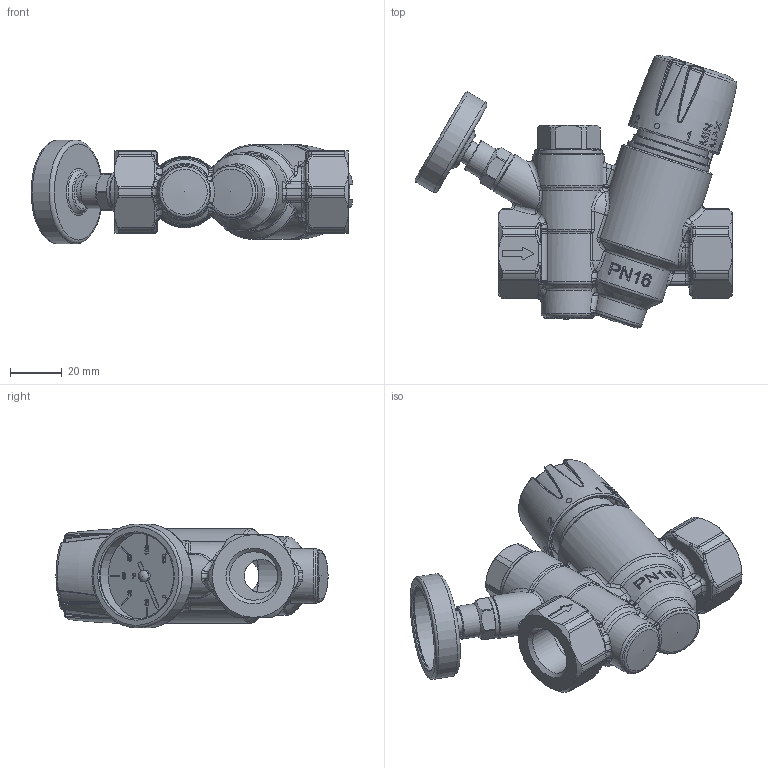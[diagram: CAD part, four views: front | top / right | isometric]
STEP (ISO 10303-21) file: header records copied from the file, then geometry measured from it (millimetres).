
FILE_DESCRIPTION(/* description */ ('Unknown'),/* implementation_level */ '2;1');
FILE_NAME(/* name */ 'T440132.L-AF',/* time_stamp */ '2024-04-08T17:09:53+02:00',/* author */ ('Unknown'),/* organization */ ('Unknown'),/* preprocessor_version */ 'ST-DEVELOPER v18.102',/* originating_system */ 'Solid Edge',/* authorisation */ 'Unknown');
FILE_SCHEMA (('AUTOMOTIVE_DESIGN {1 0 10303 214 3 1 1}'));
Products named in the file (9): T44.L-AF; 41291; GHIERA T44 AFRISO; 23498; Manopola serigrafata T15; 67161; 22018; 23497; 57205
Assembly tree (8 placements, depth 2):
  T44.L-AF
    41291
    GHIERA T44 AFRISO
    23498
    Manopola serigrafata T15
    67161
    22018
    23497
    57205
Bounding box: 123.83 x 104.69 x 40 mm (x, y, z)
Volume: 86135.6 mm3; surface area: 59816.3 mm2
Topology: 8 solids, 8 shells, 2144 faces, 5664 edges, 3583 vertices
Faces by surface type: plane 723, bspline 541, cylinder 411, torus 279, cone 107, sphere 83
Full cylindrical faces by diameter (mm): 0.3 x1, 4 x1, 4.5 x1, 4.502 x1, 4.572 x1, 7.841 x1, 8 x1, 8.8 x1, 9 x1, 10 x2, 11.5 x1, 12 x1, 12.8 x1, 13 x5, 13.5 x1, 14.4 x1, 15.9 x2, 16 x1, 16.1 x1, 16.4 x1, 16.5 x1, 17.015 x1, 17.2 x1, 18 x2, 18.2 x1, 18.631 x4, 19 x1, 19.1 x1, 20 x2, 20.4 x2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
Entity records: 97267 total; most frequent: CARTESIAN_POINT 40318, ORIENTED_EDGE 10804, DIRECTION 8124, EDGE_CURVE 5402, VERTEX_POINT 3547, AXIS2_PLACEMENT_3D 3442, FACE_BOUND 2431, EDGE_LOOP 2429
